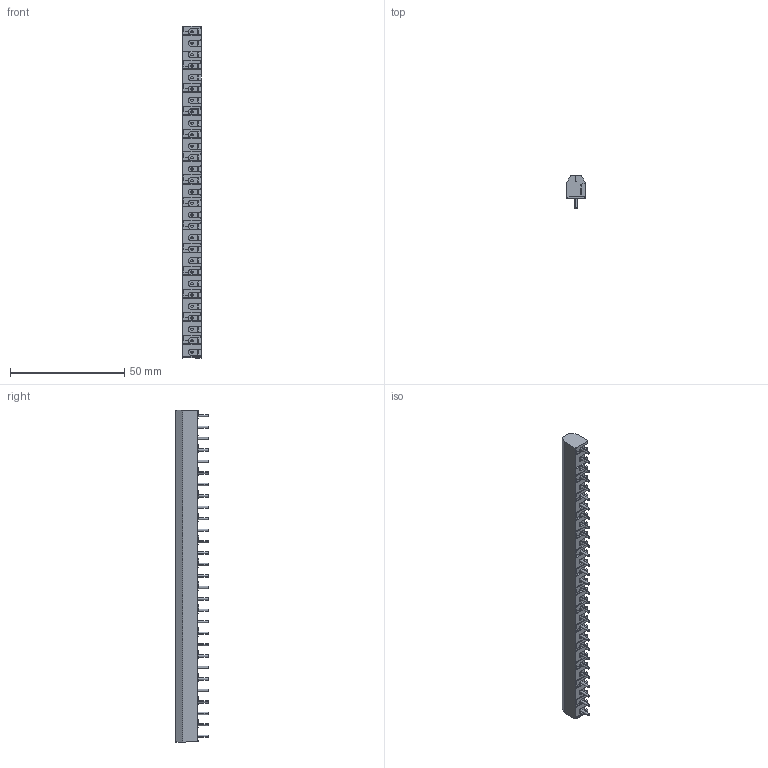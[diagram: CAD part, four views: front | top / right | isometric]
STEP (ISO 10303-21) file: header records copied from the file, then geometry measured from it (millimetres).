
FILE_DESCRIPTION (( 'STEP AP214' ), '1' );
FILE_NAME ('950-FB-29.STEP', '2008-03-20T01:15:02', ( ' ' ), ( '' ), 'SwSTEP 2.0', 'SolidWorks 2007', '' );
FILE_SCHEMA (( 'AUTOMOTIVE_DESIGN' ));
Length unit declared in the file: millimetre
Products named in the file (1): 950-FB-29
Bounding box: 8 x 14.2 x 145 mm (x, y, z)
Volume: 8125.6 mm3; surface area: 8840.3 mm2
Topology: 1 solids, 1 shells, 2132 faces, 6256 edges, 4155 vertices
Faces by surface type: plane 1579, cylinder 478, cone 75
Entity records: 76877 total; most frequent: CARTESIAN_POINT 22264, ORIENTED_EDGE 12512, DIRECTION 9711, EDGE_CURVE 6256, VECTOR 4277, LINE 4277, VERTEX_POINT 4155, AXIS2_PLACEMENT_3D 2717
